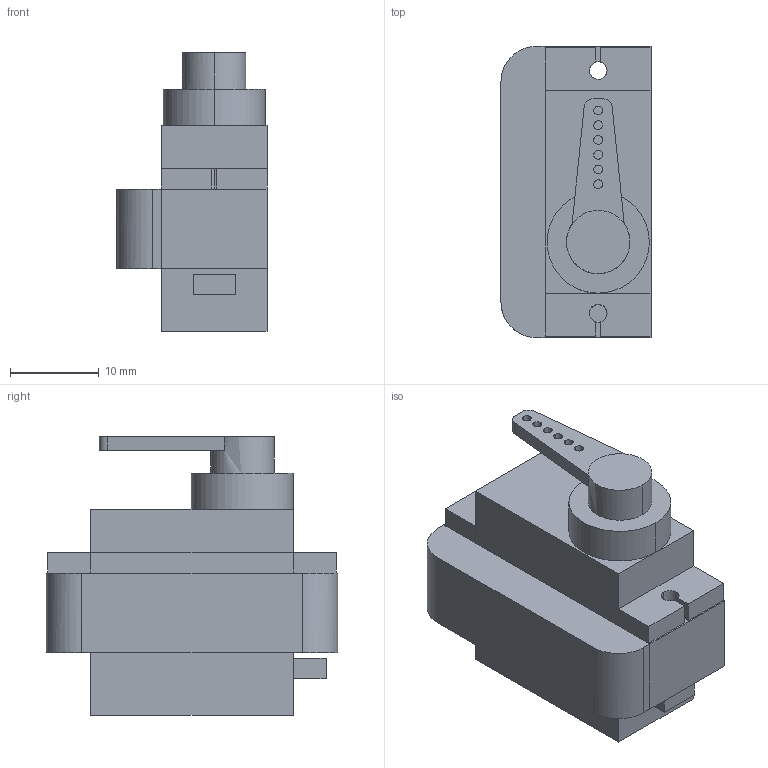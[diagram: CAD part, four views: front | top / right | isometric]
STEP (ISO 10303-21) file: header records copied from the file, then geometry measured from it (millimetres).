
FILE_DESCRIPTION(/* description */ (''),/* implementation_level */ '2;1');
FILE_NAME(/* name */ 'MICROS~1',/* time_stamp */ '2016-10-07T08:55:27-04:00',/* author */ (''),/* organization */ (''),/* preprocessor_version */ 'ST-DEVELOPER v15',/* originating_system */ '',/* authorisation */ '');
FILE_SCHEMA (('AUTOMOTIVE_DESIGN'));
Length unit declared in the file: millimetre
Products named in the file (1): Document
Bounding box: 16.92 x 32.86 x 31.44 mm (x, y, z)
Volume: 9773.1 mm3; surface area: 4775.9 mm2
Topology: 3 solids, 3 shells, 88 faces, 212 edges, 132 vertices
Faces by surface type: plane 58, bspline 30
Entity records: 2526 total; most frequent: CARTESIAN_POINT 1101, ORIENTED_EDGE 424, EDGE_CURVE 212, VERTEX_POINT 132, B_SPLINE_CURVE_WITH_KNOTS 127, EDGE_LOOP 106, ADVANCED_FACE 88, FACE_OUTER_BOUND 88
